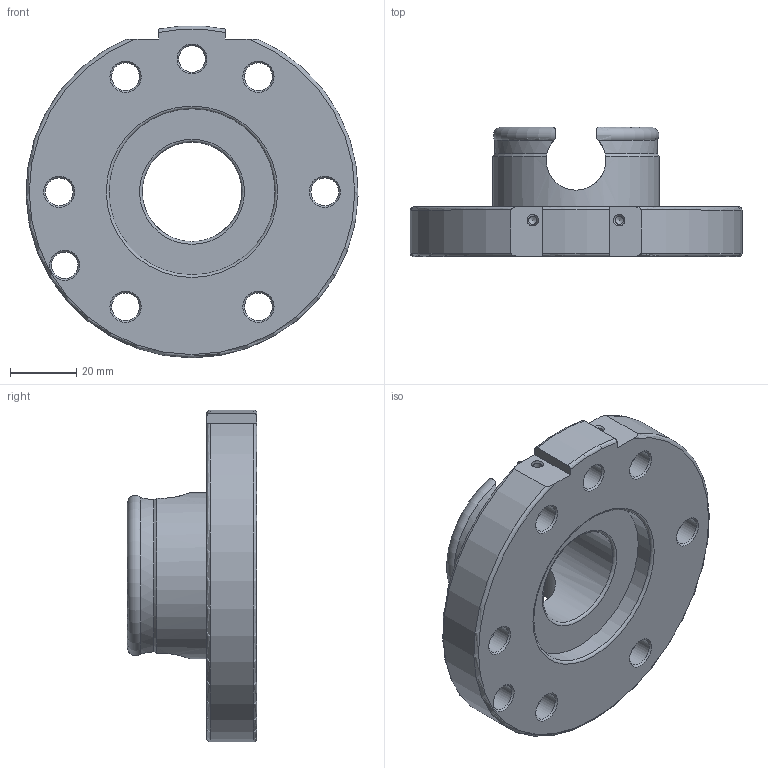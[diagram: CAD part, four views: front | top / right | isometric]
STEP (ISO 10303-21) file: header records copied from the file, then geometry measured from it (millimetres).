
FILE_DESCRIPTION(/* description */ (''),/* implementation_level */ '2;1');
FILE_NAME(/* name */ '\\dc01\daten\CAD\Standard\Daten\3D-Datenbank\Webseite 2020\SHW\SHW100\G-SHW100-2UE.stp',/* time_stamp */ '2020-04-22T15:53:47+02:00',/* author */ ('ysplieth'),/* organization */ (''),/* preprocessor_version */ 'ST-DEVELOPER v17',/* originating_system */ 'Autodesk Inventor 2018',/* authorisation */ '');
FILE_SCHEMA (('AUTOMOTIVE_DESIGN { 1 0 10303 214 3 1 1 }'));
Length unit declared in the file: millimetre
Products named in the file (1): G-SHW100-2UE
Bounding box: 99.95 x 39 x 99.89 mm (x, y, z)
Volume: 109799.8 mm3; surface area: 29291.5 mm2
Topology: 1 solids, 1 shells, 80 faces, 217 edges, 146 vertices
Faces by surface type: cylinder 25, plane 23, cone 22, torus 10
Full cylindrical faces by diameter (mm): 2.459 x2, 8 x2, 8.376 x6, 15 x6, 30 x1, 50 x2
Entity records: 3023 total; most frequent: CARTESIAN_POINT 814, DIRECTION 443, ORIENTED_EDGE 430, EDGE_CURVE 215, AXIS2_PLACEMENT_3D 187, VERTEX_POINT 146, EDGE_LOOP 107, CIRCLE 106
